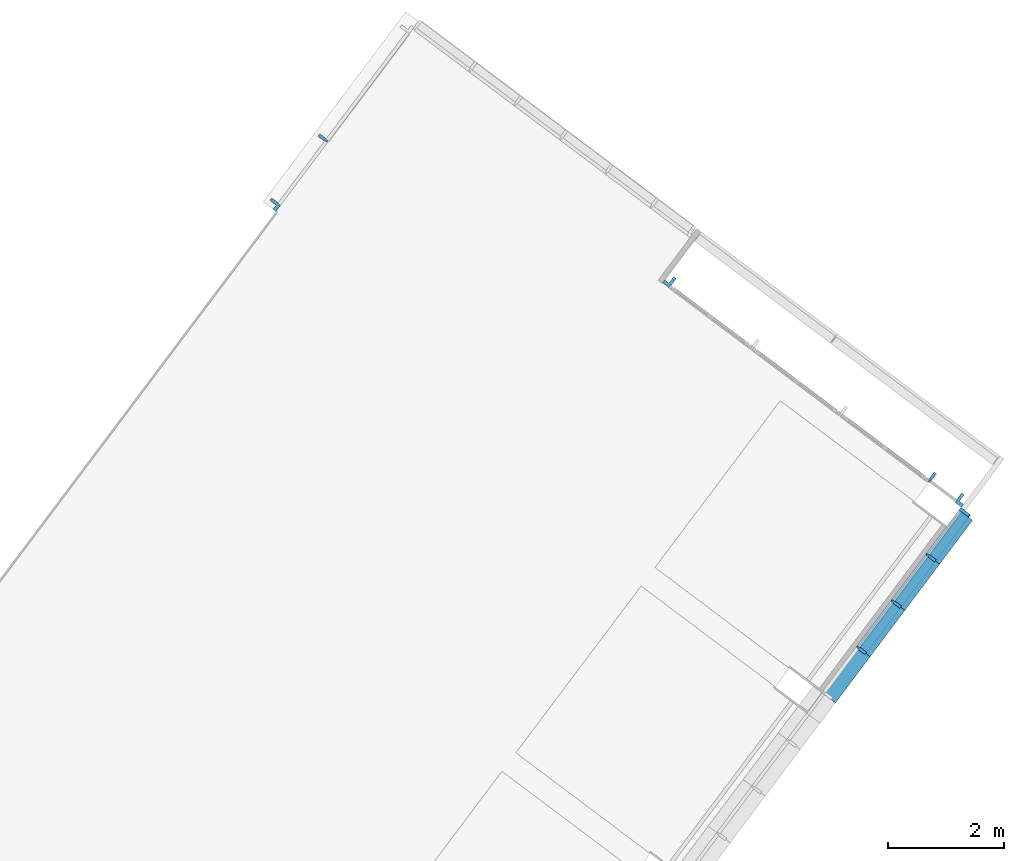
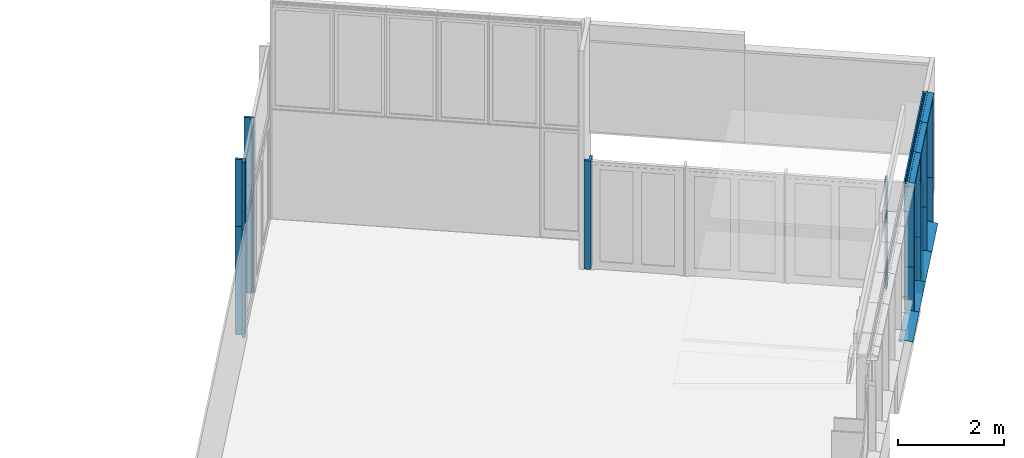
# One storey, part 2 of 15: 22 members, 3 elements without a shape of their own.
"""IFC2X3 building model written with IfcOpenShell, lengths in metres."""

from ifc_helpers import new_model, entity, si_unit, converted_unit, derived_unit, direction, frame, frame_2d, origin, place, context, subcontext, project, spatial, polyline, rectangle, outline, extrude, source, transform, mapped, material, type_object, type_shapes, element, aggregate, save


model = new_model("IFC2X3")

# Units and contexts
model_context = context("Model", 3, precision=1e-05, world=origin(), true_north=direction((6.123031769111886e-17, 1.0)))
body_context = subcontext(model_context, "Body", "Model", "MODEL_VIEW")
ifc_project = project(units=[si_unit("LENGTHUNIT", "METRE"), si_unit("AREAUNIT", "SQUARE_METRE"), si_unit("VOLUMEUNIT", "CUBIC_METRE"), converted_unit("PLANEANGLEUNIT", "DEGREE", entity("IfcRatioMeasure", 0.017453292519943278), si_unit("PLANEANGLEUNIT", "RADIAN"), dimensions=[0, 0, 0, 0, 0, 0, 0]), si_unit("MASSUNIT", "GRAM", prefix="KILO"), derived_unit("MASSDENSITYUNIT", [(si_unit("MASSUNIT", "GRAM", prefix="KILO"), 1), (si_unit("LENGTHUNIT", "METRE"), -3)]), derived_unit("IONCONCENTRATIONUNIT", [(si_unit("MASSUNIT", "GRAM", prefix="KILO"), 1), (si_unit("LENGTHUNIT", "METRE"), -3)]), derived_unit("MOMENTOFINERTIAUNIT", [(si_unit("LENGTHUNIT", "METRE"), 4)]), si_unit("TIMEUNIT", "SECOND"), si_unit("FREQUENCYUNIT", "HERTZ"), si_unit("THERMODYNAMICTEMPERATUREUNIT", "DEGREE_CELSIUS"), derived_unit("THERMALTRANSMITTANCEUNIT", [(si_unit("MASSUNIT", "GRAM", prefix="KILO"), 1), (si_unit("THERMODYNAMICTEMPERATUREUNIT", "KELVIN"), -1), (si_unit("TIMEUNIT", "SECOND"), -3)]), derived_unit("THERMALCONDUCTANCEUNIT", [(si_unit("MASSUNIT", "GRAM", prefix="KILO"), 1), (si_unit("THERMODYNAMICTEMPERATUREUNIT", "KELVIN"), -1), (si_unit("TIMEUNIT", "SECOND"), -3), (si_unit("LENGTHUNIT", "METRE"), 1)]), derived_unit("VOLUMETRICFLOWRATEUNIT", [(si_unit("LENGTHUNIT", "METRE"), 3), (si_unit("TIMEUNIT", "SECOND"), -1)]), derived_unit("MASSFLOWRATEUNIT", [(si_unit("MASSUNIT", "GRAM", prefix="KILO"), 1), (si_unit("TIMEUNIT", "SECOND"), -1)]), derived_unit("ROTATIONALFREQUENCYUNIT", [(si_unit("TIMEUNIT", "SECOND"), -1)]), si_unit("ELECTRICCURRENTUNIT", "AMPERE"), si_unit("ELECTRICVOLTAGEUNIT", "VOLT"), si_unit("POWERUNIT", "WATT"), si_unit("FORCEUNIT", "NEWTON", prefix="KILO"), si_unit("ILLUMINANCEUNIT", "LUX"), si_unit("LUMINOUSFLUXUNIT", "LUMEN"), si_unit("LUMINOUSINTENSITYUNIT", "CANDELA"), derived_unit("USERDEFINED", [(si_unit("MASSUNIT", "GRAM", prefix="KILO"), -1), (si_unit("LENGTHUNIT", "METRE"), -2), (si_unit("TIMEUNIT", "SECOND"), 3), (si_unit("LUMINOUSFLUXUNIT", "LUMEN"), 1)]), derived_unit("USERDEFINED", [(si_unit("MASSUNIT", "GRAM", prefix="KILO"), 1), (si_unit("TIMEUNIT", "SECOND"), -3), (si_unit("LENGTHUNIT", "METRE"), 3), (si_unit("ELECTRICCURRENTUNIT", "AMPERE"), -2)]), derived_unit("SOUNDPOWERUNIT", [(si_unit("MASSUNIT", "GRAM", prefix="KILO"), 1), (si_unit("TIMEUNIT", "SECOND"), -3), (si_unit("LENGTHUNIT", "METRE"), 2)]), derived_unit("SOUNDPRESSUREUNIT", [(si_unit("MASSUNIT", "GRAM", prefix="KILO"), 1), (si_unit("LENGTHUNIT", "METRE"), -1), (si_unit("TIMEUNIT", "SECOND"), -2)]), derived_unit("LINEARVELOCITYUNIT", [(si_unit("LENGTHUNIT", "METRE"), 1), (si_unit("TIMEUNIT", "SECOND"), -1)]), si_unit("PRESSUREUNIT", "PASCAL"), derived_unit("USERDEFINED", [(si_unit("MASSUNIT", "GRAM", prefix="KILO"), 1), (si_unit("LENGTHUNIT", "METRE"), -2), (si_unit("TIMEUNIT", "SECOND"), -2)]), derived_unit("LINEARFORCEUNIT", [(si_unit("MASSUNIT", "GRAM", prefix="KILO"), 1), (si_unit("TIMEUNIT", "SECOND"), -2)]), derived_unit("PLANARFORCEUNIT", [(si_unit("MASSUNIT", "GRAM", prefix="KILO"), 1), (si_unit("LENGTHUNIT", "METRE"), -1), (si_unit("TIMEUNIT", "SECOND"), -2)]), derived_unit("SPECIFICHEATCAPACITYUNIT", [(si_unit("THERMODYNAMICTEMPERATUREUNIT", "KELVIN"), -1), (si_unit("LENGTHUNIT", "METRE"), 2), (si_unit("TIMEUNIT", "SECOND"), -2)]), derived_unit("HEATINGVALUEUNIT", [(si_unit("LENGTHUNIT", "METRE"), 2), (si_unit("TIMEUNIT", "SECOND"), -2)]), derived_unit("VAPORPERMEABILITYUNIT", [(si_unit("LENGTHUNIT", "METRE"), -1), (si_unit("TIMEUNIT", "SECOND"), 1)]), derived_unit("DYNAMICVISCOSITYUNIT", [(si_unit("MASSUNIT", "GRAM", prefix="KILO"), 1), (si_unit("TIMEUNIT", "SECOND"), -1), (si_unit("LENGTHUNIT", "METRE"), -1)]), derived_unit("THERMALEXPANSIONCOEFFICIENTUNIT", [(si_unit("THERMODYNAMICTEMPERATUREUNIT", "KELVIN"), -1)]), derived_unit("MODULUSOFELASTICITYUNIT", [(si_unit("MASSUNIT", "GRAM", prefix="KILO"), 1), (si_unit("LENGTHUNIT", "METRE"), -1), (si_unit("TIMEUNIT", "SECOND"), -2)]), derived_unit("ISOTHERMALMOISTURECAPACITYUNIT", [(si_unit("LENGTHUNIT", "METRE"), 3), (si_unit("MASSUNIT", "GRAM", prefix="KILO"), -1)]), derived_unit("MOISTUREDIFFUSIVITYUNIT", [(si_unit("TIMEUNIT", "SECOND"), -1), (si_unit("LENGTHUNIT", "METRE"), 2)])], contexts=[model_context])

# Site, building, storey
site_placement = place(None, frame((0.0, 0.0, 235.0), z_axis=(0.0, 0.0, 1.0), x_axis=(-0.7996477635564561, 0.6004693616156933, 0.0)))
site = spatial("IfcSite", under=ifc_project, at=site_placement, Name="Default", CompositionType="ELEMENT")
building_placement = place(site_placement, origin())
building = spatial("IfcBuilding", under=site, at=building_placement, CompositionType="ELEMENT")
storey_placement = place(building_placement, frame((0.0, 0.0, -5.4499999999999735)))
storey = spatial("IfcBuildingStorey", under=building, at=storey_placement, Name="PS1- Gimnàs", CompositionType="ELEMENT", Elevation=-5.4499999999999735)

# Curtain wall, members
curtain_wall_type_1 = type_object("IfcCurtainWallType", Name="Muro cortina:MC- EXT- MCv1- Portes", PredefinedType="NOTDEFINED")
curtain_wall_1_placement = place(storey_placement, frame((0.0, 0.0, 5.4499999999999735)))
curtain_wall_1 = element("IfcCurtainWall", 1, at=curtain_wall_1_placement, inside=storey, type_object=curtain_wall_type_1, Name="Muro cortina:MC- EXT- MCv1- Portes", ObjectType="Muro cortina:MC- EXT- MCv1- Portes")
ifc_material = material(Name="_Alumini- T1- Perfil")
member_type_1 = type_object("IfcMemberType", Name="Montante rectangular:MC- Alu- 210x50 cm- Gimnas- Dreta", PredefinedType="MULLION", material=ifc_material)
shared_shape_1 = source(origin(), body_context, "Body", "SweptSolid", [
    extrude(outline(polyline([(-0.019499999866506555, -0.051562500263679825), (0.11949999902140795, -0.051562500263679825), (0.11949999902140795, 0.0009375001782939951), (-0.019500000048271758, 0.0009375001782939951), (-0.019500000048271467, 0.090937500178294), (-0.0804999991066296, 0.09093750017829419), (-0.08049999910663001, -0.04031250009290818), (-0.019499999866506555, -0.04031250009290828), (-0.019499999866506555, -0.051562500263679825)])), frame((-0.090937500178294, -0.020499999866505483, -1.5455557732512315), z_axis=(0.0, 0.0, 1.0), x_axis=(0.0, -1.0, 0.0)), (0.0, 0.0, 1.0), 1.5455557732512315),
])
type_shapes(member_type_1, [shared_shape_1])
member_1_placement = place(curtain_wall_1_placement, frame((15.730147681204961, -35.37519881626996, -1.4044442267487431), z_axis=(0.0, 0.0, 1.0), x_axis=(0.0, 1.0, 0.0)))
member_1 = element("IfcMember", 2, at=member_1_placement, type_object=member_type_1, material=ifc_material, Name="Montante rectangular:MC- Alu- 210x50 cm- Gimnas- Dreta", ObjectType="Montante rectangular:MC- Alu- 210x50 cm- Gimnas- Dreta", context=body_context, shape_type="MappedRepresentation", body=[
    mapped(shared_shape_1, transform((0.0, 0.0, 0.0), scale=1.0)),
])
member_type_2 = type_object("IfcMemberType", Name="Montante rectangular:MC- Alu- 210x50 cm- Gimnas- Centre", PredefinedType="MULLION", material=ifc_material)
shared_shape_2 = source(origin(), body_context, "Body", "SweptSolid", [
    extrude(outline(polyline([(-0.021999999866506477, -0.026250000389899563), (0.11699999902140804, -0.026250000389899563), (0.11699999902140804, 0.026250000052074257), (-0.02200000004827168, 0.026250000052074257), (-0.02200000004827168, 0.015000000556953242), (-0.07299999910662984, 0.015000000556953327), (-0.07299999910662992, -0.01500000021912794), (-0.021999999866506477, -0.01500000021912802), (-0.021999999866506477, -0.026250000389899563)])), frame((0.0, -0.022999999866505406, -2.4999999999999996), z_axis=(0.0, 0.0, 1.0), x_axis=(0.0, -1.0, 0.0)), (0.0, 0.0, 1.0), 2.4999999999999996),
])
type_shapes(member_type_2, [shared_shape_2])
member_2_placement = place(curtain_wall_1_placement, frame((15.730147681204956, -36.875198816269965, -5.449999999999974), z_axis=(0.0, 0.0, -1.0), x_axis=(0.0, -1.0, 0.0)))
member_2 = element("IfcMember", 3, at=member_2_placement, type_object=member_type_2, material=ifc_material, Name="Montante rectangular:MC- Alu- 210x50 cm- Gimnas- Centre", ObjectType="Montante rectangular:MC- Alu- 210x50 cm- Gimnas- Centre", context=body_context, shape_type="MappedRepresentation", body=[
    mapped(shared_shape_2, transform((0.0, 0.0, 0.0), scale=1.0)),
])
member_type_3 = type_object("IfcMemberType", Name="Montante rectangular:MC- Alu- 210x50 cm- Gimnas- Dreta", PredefinedType="MULLION", material=ifc_material)
shared_shape_3 = source(origin(), body_context, "Body", "SweptSolid", [
    extrude(outline(polyline([(-0.019499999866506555, -0.051562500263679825), (0.11949999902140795, -0.051562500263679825), (0.11949999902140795, 0.0009375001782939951), (-0.019500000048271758, 0.0009375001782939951), (-0.019500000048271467, 0.090937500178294), (-0.0804999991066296, 0.09093750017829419), (-0.08049999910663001, -0.04031250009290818), (-0.019499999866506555, -0.04031250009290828), (-0.019499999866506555, -0.051562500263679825)])), frame((-0.090937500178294, -0.020499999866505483, -2.4999999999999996), z_axis=(0.0, 0.0, 1.0), x_axis=(0.0, -1.0, 0.0)), (0.0, 0.0, 1.0), 2.5),
])
type_shapes(member_type_3, [shared_shape_3])
member_3_placement = place(curtain_wall_1_placement, frame((15.730147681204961, -35.37519881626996, -2.9499999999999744), z_axis=(0.0, 0.0, 1.0), x_axis=(0.0, 1.0, 0.0)))
member_3 = element("IfcMember", 4, at=member_3_placement, type_object=member_type_3, material=ifc_material, Name="Montante rectangular:MC- Alu- 210x50 cm- Gimnas- Dreta", ObjectType="Montante rectangular:MC- Alu- 210x50 cm- Gimnas- Dreta", context=body_context, shape_type="MappedRepresentation", body=[
    mapped(shared_shape_3, transform((0.0, 0.0, 0.0), scale=1.0)),
])
member_type_4 = type_object("IfcMemberType", Name="Montante rectangular:MC- Alu- 210x50 cm- Gimnas- Centre", PredefinedType="MULLION", material=ifc_material)
shared_shape_4 = source(origin(), body_context, "Body", "SweptSolid", [
    extrude(outline(polyline([(-0.021999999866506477, -0.026250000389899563), (0.11699999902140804, -0.026250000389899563), (0.11699999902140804, 0.026250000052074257), (-0.02200000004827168, 0.026250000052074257), (-0.02200000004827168, 0.015000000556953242), (-0.07299999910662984, 0.015000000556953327), (-0.07299999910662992, -0.01500000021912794), (-0.021999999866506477, -0.01500000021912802), (-0.021999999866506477, -0.026250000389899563)])), frame((0.0, -0.022999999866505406, -1.5455557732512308), z_axis=(0.0, 0.0, 1.0), x_axis=(0.0, -1.0, 0.0)), (0.0, 0.0, 1.0), 1.545555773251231),
])
type_shapes(member_type_4, [shared_shape_4])
member_4_placement = place(curtain_wall_1_placement, frame((15.730147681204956, -36.875198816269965, -2.949999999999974), z_axis=(0.0, 0.0, -1.0), x_axis=(0.0, -1.0, 0.0)))
member_4 = element("IfcMember", 5, at=member_4_placement, type_object=member_type_4, material=ifc_material, Name="Montante rectangular:MC- Alu- 210x50 cm- Gimnas- Centre", ObjectType="Montante rectangular:MC- Alu- 210x50 cm- Gimnas- Centre", context=body_context, shape_type="MappedRepresentation", body=[
    mapped(shared_shape_4, transform((0.0, 0.0, 0.0), scale=1.0)),
])
aggregate(curtain_wall_1, [member_1, member_2, member_3, member_4])

curtain_wall_2_placement = place(storey_placement, frame((0.0, 0.0, 5.4499999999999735)))
curtain_wall_2 = element("IfcCurtainWall", 6, at=curtain_wall_2_placement, inside=storey, type_object=curtain_wall_type_1, Name="Muro cortina:MC- EXT- MCv1- Portes", ObjectType="Muro cortina:MC- EXT- MCv1- Portes")
member_type_5 = type_object("IfcMemberType", Name="Montante rectangular:MC- Alu- 210x50 cm- Gimnas- Esquerra", PredefinedType="MULLION", material=ifc_material)
shared_shape_5 = source(origin(), body_context, "Body", "SweptSolid", [
    extrude(outline(polyline([(-0.019499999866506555, -0.051562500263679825), (0.11949999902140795, -0.051562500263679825), (0.11949999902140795, 0.0009375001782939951), (-0.019500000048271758, 0.0009375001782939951), (-0.019500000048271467, 0.090937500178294), (-0.0804999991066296, 0.09093750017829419), (-0.08049999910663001, -0.04031250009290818), (-0.019499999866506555, -0.04031250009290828), (-0.019499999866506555, -0.051562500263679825)])), frame((-0.090937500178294, -0.020499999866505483, -2.499999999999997), z_axis=(0.0, 0.0, 1.0), x_axis=(0.0, -1.0, 0.0)), (0.0, 0.0, 1.0), 2.499999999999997),
])
type_shapes(member_type_5, [shared_shape_5])
member_5_placement = place(curtain_wall_2_placement, frame((3.1411476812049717, -38.460191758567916, -5.449999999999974), z_axis=(0.0, 0.0, -1.0), x_axis=(-1.0, 0.0, 0.0)))
member_5 = element("IfcMember", 7, at=member_5_placement, type_object=member_type_5, material=ifc_material, Name="Montante rectangular:MC- Alu- 210x50 cm- Gimnas- Esquerra", ObjectType="Montante rectangular:MC- Alu- 210x50 cm- Gimnas- Esquerra", context=body_context, shape_type="MappedRepresentation", body=[
    mapped(shared_shape_5, transform((0.0, 0.0, 0.0), scale=1.0)),
])
member_type_6 = type_object("IfcMemberType", Name="Montante rectangular:MC- Alu- 210x50 cm- Gimnas- Dreta", PredefinedType="MULLION", material=ifc_material)
shared_shape_6 = source(origin(), body_context, "Body", "SweptSolid", [
    extrude(outline(polyline([(-0.019499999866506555, -0.051562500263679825), (0.11949999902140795, -0.051562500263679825), (0.11949999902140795, 0.0009375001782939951), (-0.019500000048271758, 0.0009375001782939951), (-0.019500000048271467, 0.090937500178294), (-0.0804999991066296, 0.09093750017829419), (-0.08049999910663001, -0.04031250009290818), (-0.019499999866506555, -0.04031250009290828), (-0.019499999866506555, -0.051562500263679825)])), frame((-0.090937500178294, -0.020499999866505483, -2.499999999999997), z_axis=(0.0, 0.0, 1.0), x_axis=(0.0, -1.0, 0.0)), (0.0, 0.0, 1.0), 2.499999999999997),
])
type_shapes(member_type_6, [shared_shape_6])
member_6_placement = place(curtain_wall_2_placement, frame((9.591147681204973, -38.46019175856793, -2.949999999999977)))
member_6 = element("IfcMember", 8, at=member_6_placement, type_object=member_type_6, material=ifc_material, Name="Montante rectangular:MC- Alu- 210x50 cm- Gimnas- Dreta", ObjectType="Montante rectangular:MC- Alu- 210x50 cm- Gimnas- Dreta", context=body_context, shape_type="MappedRepresentation", body=[
    mapped(shared_shape_6, transform((0.0, 0.0, 0.0), scale=1.0)),
])
member_type_7 = type_object("IfcMemberType", Name="Montante rectangular:MC- Alu- 210x50 cm- Gimnas- Centre", PredefinedType="MULLION", material=ifc_material)
shared_shape_7 = source(origin(), body_context, "Body", "SweptSolid", [
    extrude(outline(polyline([(-0.021999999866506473, -0.026250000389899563), (0.11699999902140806, -0.026250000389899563), (0.11699999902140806, 0.026250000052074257), (-0.022000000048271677, 0.026250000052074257), (-0.022000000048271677, 0.015000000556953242), (-0.07299999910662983, 0.015000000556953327), (-0.07299999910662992, -0.01500000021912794), (-0.021999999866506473, -0.01500000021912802), (-0.021999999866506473, -0.026250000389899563)])), frame((0.0, -0.022999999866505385, -2.499999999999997), z_axis=(0.0, 0.0, 1.0), x_axis=(0.0, -1.0, 0.0)), (0.0, 0.0, 1.0), 2.499999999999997),
])
type_shapes(member_type_7, [shared_shape_7])
member_7_placement = place(curtain_wall_2_placement, frame((3.8551476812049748, -38.460191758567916, -5.449999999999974), z_axis=(0.0, 0.0, -1.0), x_axis=(-1.0, 0.0, 0.0)))
member_7 = element("IfcMember", 9, at=member_7_placement, type_object=member_type_7, material=ifc_material, Name="Montante rectangular:MC- Alu- 210x50 cm- Gimnas- Centre", ObjectType="Montante rectangular:MC- Alu- 210x50 cm- Gimnas- Centre", context=body_context, shape_type="MappedRepresentation", body=[
    mapped(shared_shape_7, transform((0.0, 0.0, 0.0), scale=1.0)),
])
aggregate(curtain_wall_2, [member_5, member_6, member_7])

curtain_wall_type_2 = type_object("IfcCurtainWallType", Name="Muro cortina:MC- EXT- MCv1- lateral", PredefinedType="NOTDEFINED")
curtain_wall_3_placement = place(storey_placement, frame((0.0, 0.0, 5.4499999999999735)))
curtain_wall_3 = element("IfcCurtainWall", 10, at=curtain_wall_3_placement, inside=storey, type_object=curtain_wall_type_2, Name="Muro cortina:MC- EXT- MCv1- lateral", ObjectType="Muro cortina:MC- EXT- MCv1- lateral")
member_type_8 = type_object("IfcMemberType", Name="Montante rectangular:MC- Alu- gimnàs inferior lateral", PredefinedType="MULLION", material=ifc_material)
shared_shape_8 = source(origin(), body_context, "Body", "SweptSolid", [
    extrude(outline(polyline([(-0.14744510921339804, -0.030634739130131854), (-0.0654451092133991, -0.030634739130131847), (0.12380638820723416, 0.005375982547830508), (0.12380638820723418, 0.01936526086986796), (0.12180638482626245, 0.019365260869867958), (0.12180638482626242, 0.0070313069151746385), (-0.06544510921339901, -0.028598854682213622), (-0.06544510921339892, 0.019365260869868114), (-0.14744510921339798, 0.01936526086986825), (-0.14744510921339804, -0.030634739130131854)])), frame((-0.019365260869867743, -0.11044510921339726, -0.9470187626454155), z_axis=(0.0, 0.0, 1.0), x_axis=(0.0, -1.0, 0.0)), (0.0, 0.0, 1.0), 0.9470187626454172),
])
type_shapes(member_type_8, [shared_shape_8])
member_8_placement = place(curtain_wall_3_placement, frame((3.085147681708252, -38.33624804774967, -3.793999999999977), z_axis=(0.0, -1.0, 0.0), x_axis=(0.0, 0.0, -1.0)))
member_8 = element("IfcMember", 11, at=member_8_placement, type_object=member_type_8, material=ifc_material, Name="Montante rectangular:MC- Alu- gimnàs inferior lateral", ObjectType="Montante rectangular:MC- Alu- gimnàs inferior lateral", context=body_context, shape_type="MappedRepresentation", body=[
    mapped(shared_shape_8, transform((0.0, 0.0, 0.0), scale=1.0)),
])
member_type_9 = type_object("IfcMemberType", Name="Montante rectangular:MC- Alu- 210x50 cm- Gimnas- Centre inferior", PredefinedType="MULLION", material=ifc_material)
shared_shape_9 = source(origin(), body_context, "Body", "SweptSolid", [
    extrude(rectangle(XDim=0.19999999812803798, YDim=0.052500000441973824, at=frame_2d((-3.469446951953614e-17, 0.0), x_axis=(1.0, 0.0))), frame((-0.026250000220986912, -0.03999999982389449, -1.8474999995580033), z_axis=(0.0, 0.0, 1.0), x_axis=(0.0, -1.0, 0.0)), (0.0, 0.0, 1.0), 1.8474999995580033),
])
type_shapes(member_type_9, [shared_shape_9])
member_9_placement = place(curtain_wall_3_placement, frame((3.085147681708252, -38.388748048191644, -0.8925000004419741), z_axis=(0.0, 0.0, 1.0), x_axis=(0.0, -1.0, 0.0)))
member_9 = element("IfcMember", 12, at=member_9_placement, type_object=member_type_9, material=ifc_material, Name="Montante rectangular:MC- Alu- 210x50 cm- Gimnas- Centre inferior", ObjectType="Montante rectangular:MC- Alu- 210x50 cm- Gimnas- Centre inferior", context=body_context, shape_type="MappedRepresentation", body=[
    mapped(shared_shape_9, transform((0.0, 0.0, 0.0), scale=1.0)),
])
member_type_10 = type_object("IfcMemberType", Name="Montante rectangular:MC- Alu- 210x50 cm- Gimnas- Superior", PredefinedType="MULLION", material=ifc_material)
shared_shape_10 = source(origin(), body_context, "Body", "SweptSolid", [
    extrude(outline(polyline([(-0.09008951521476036, -0.0692243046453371), (0.10991048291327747, -0.0692243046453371), (0.10991048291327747, -0.016724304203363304), (-0.027089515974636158, -0.016724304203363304), (-0.027089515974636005, 0.030275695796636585), (0.006151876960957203, 0.030275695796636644), (0.006151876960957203, 0.01801675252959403), (0.11816142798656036, -0.0017335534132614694), (0.11816142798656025, -0.029506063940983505), (0.12116142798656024, -0.029506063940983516), (0.12116142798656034, 0.0007837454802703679), (0.009151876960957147, 0.020534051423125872), (0.009151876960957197, 0.033275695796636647), (-0.030089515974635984, 0.03327569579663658), (-0.030089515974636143, -0.016724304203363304), (-0.0620895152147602, -0.016724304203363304), (-0.06208951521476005, 0.03327569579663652), (-0.09008951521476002, 0.03327569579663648), (-0.09008951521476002, 0.030275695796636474), (-0.06508951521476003, 0.03027569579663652), (-0.06508951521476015, -0.013724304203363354), (-0.09008951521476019, -0.01372430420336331), (-0.09008951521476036, -0.0692243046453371)])), frame((-0.03327569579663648, -0.030089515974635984, -0.9995187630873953), z_axis=(0.0, 0.0, 1.0), x_axis=(0.0, -1.0, 0.0)), (0.0, 0.0, 1.0), 0.9995187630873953),
])
type_shapes(member_type_10, [shared_shape_10])
member_10_placement = place(curtain_wall_3_placement, frame((3.085147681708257, -35.39019175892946, -0.79), z_axis=(0.0, 1.0, 0.0), x_axis=(0.0, 0.0, 1.0)))
member_10 = element("IfcMember", 13, at=member_10_placement, type_object=member_type_10, material=ifc_material, Name="Montante rectangular:MC- Alu- 210x50 cm- Gimnas- Superior", ObjectType="Montante rectangular:MC- Alu- 210x50 cm- Gimnas- Superior", context=body_context, shape_type="MappedRepresentation", body=[
    mapped(shared_shape_10, transform((0.0, 0.0, 0.0), scale=1.0)),
])
member_11_placement = place(curtain_wall_3_placement, frame((3.0851476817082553, -36.389710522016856, -0.79), z_axis=(0.0, 1.0, 0.0), x_axis=(0.0, 0.0, 1.0)))
member_11 = element("IfcMember", 14, at=member_11_placement, type_object=member_type_10, material=ifc_material, Name="Montante rectangular:MC- Alu- 210x50 cm- Gimnas- Superior", ObjectType="Montante rectangular:MC- Alu- 210x50 cm- Gimnas- Superior", context=body_context, shape_type="MappedRepresentation", body=[
    mapped(shared_shape_10, transform((0.0, 0.0, 0.0), scale=1.0)),
])
member_type_11 = type_object("IfcMemberType", Name="Montante rectangular:MC- Alu- gimnàs inferior lateral", PredefinedType="MULLION", material=ifc_material)
shared_shape_11 = source(origin(), body_context, "Body", "SweptSolid", [
    extrude(outline(polyline([(-0.14744510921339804, -0.030634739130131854), (-0.0654451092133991, -0.030634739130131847), (0.12380638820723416, 0.005375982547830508), (0.12380638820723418, 0.01936526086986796), (0.12180638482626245, 0.019365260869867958), (0.12180638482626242, 0.0070313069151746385), (-0.06544510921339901, -0.028598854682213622), (-0.06544510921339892, 0.019365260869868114), (-0.14744510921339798, 0.01936526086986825), (-0.14744510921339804, -0.030634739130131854)])), frame((-0.019365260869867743, -0.11044510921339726, -1.0), z_axis=(0.0, 0.0, 1.0), x_axis=(0.0, -1.0, 0.0)), (0.0, 0.0, 1.0), 0.9999999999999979),
])
type_shapes(member_type_11, [shared_shape_11])
member_12_placement = place(curtain_wall_3_placement, frame((3.085147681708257, -35.39019175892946, -3.7939999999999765), z_axis=(0.0, -1.0, 0.0), x_axis=(0.0, 0.0, -1.0)))
member_12 = element("IfcMember", 15, at=member_12_placement, type_object=member_type_11, material=ifc_material, Name="Montante rectangular:MC- Alu- gimnàs inferior lateral", ObjectType="Montante rectangular:MC- Alu- gimnàs inferior lateral", context=body_context, shape_type="MappedRepresentation", body=[
    mapped(shared_shape_11, transform((0.0, 0.0, 0.0), scale=1.0)),
])
member_type_12 = type_object("IfcMemberType", Name="Montante rectangular:MC- Alu- 140x52,5 cm- Fa patis- Centre", PredefinedType="MULLION", material=ifc_material)
shared_shape_12 = source(origin(), body_context, "Body", "SweptSolid", [
    extrude(outline(polyline([(-0.021999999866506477, -0.026250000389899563), (0.11699999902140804, -0.026250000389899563), (0.11699999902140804, 0.026250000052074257), (-0.02200000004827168, 0.026250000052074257), (-0.02200000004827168, 0.015000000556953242), (-0.07299999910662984, 0.015000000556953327), (-0.07299999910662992, -0.01500000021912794), (-0.021999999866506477, -0.01500000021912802), (-0.021999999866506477, -0.026250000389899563)])), frame((0.0, -0.022999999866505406, -1.0040000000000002), z_axis=(0.0, 0.0, 1.0), x_axis=(0.0, -1.0, 0.0)), (0.0, 0.0, 1.0), 1.0040000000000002),
])
type_shapes(member_type_12, [shared_shape_12])
member_13_placement = place(curtain_wall_3_placement, frame((3.085147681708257, -35.39019175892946, -3.7439999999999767), z_axis=(0.0, 0.0, -1.0), x_axis=(0.0, 1.0, 0.0)))
member_13 = element("IfcMember", 16, at=member_13_placement, type_object=member_type_12, material=ifc_material, Name="Montante rectangular:MC- Alu- 140x52,5 cm- Fa patis- Centre", ObjectType="Montante rectangular:MC- Alu- 140x52,5 cm- Fa patis- Centre", context=body_context, shape_type="MappedRepresentation", body=[
    mapped(shared_shape_12, transform((0.0, 0.0, 0.0), scale=1.0)),
])
member_14_placement = place(curtain_wall_3_placement, frame((3.0851476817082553, -36.389710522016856, -3.7439999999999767), z_axis=(0.0, 0.0, -1.0), x_axis=(0.0, 1.0, 0.0)))
member_14 = element("IfcMember", 17, at=member_14_placement, type_object=member_type_12, material=ifc_material, Name="Montante rectangular:MC- Alu- 140x52,5 cm- Fa patis- Centre", ObjectType="Montante rectangular:MC- Alu- 140x52,5 cm- Fa patis- Centre", context=body_context, shape_type="MappedRepresentation", body=[
    mapped(shared_shape_12, transform((0.0, 0.0, 0.0), scale=1.0)),
])
member_15_placement = place(curtain_wall_3_placement, frame((3.085147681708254, -37.38922928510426, -3.7439999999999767), z_axis=(0.0, 0.0, -1.0), x_axis=(0.0, 1.0, 0.0)))
member_15 = element("IfcMember", 18, at=member_15_placement, type_object=member_type_12, material=ifc_material, Name="Montante rectangular:MC- Alu- 140x52,5 cm- Fa patis- Centre", ObjectType="Montante rectangular:MC- Alu- 140x52,5 cm- Fa patis- Centre", context=body_context, shape_type="MappedRepresentation", body=[
    mapped(shared_shape_12, transform((0.0, 0.0, 0.0), scale=1.0)),
])
member_type_13 = type_object("IfcMemberType", Name="Montante rectangular:MC- Alu- gimnàs inferior lateral", PredefinedType="MULLION", material=ifc_material)
shared_shape_13 = source(origin(), body_context, "Body", "SweptSolid", [
    extrude(outline(polyline([(-0.14744510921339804, -0.030634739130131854), (-0.0654451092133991, -0.030634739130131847), (0.12380638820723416, 0.005375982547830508), (0.12380638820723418, 0.01936526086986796), (0.12180638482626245, 0.019365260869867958), (0.12180638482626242, 0.0070313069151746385), (-0.06544510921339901, -0.028598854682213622), (-0.06544510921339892, 0.019365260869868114), (-0.14744510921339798, 0.01936526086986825), (-0.14744510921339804, -0.030634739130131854)])), frame((-0.019365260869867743, -0.11044510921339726, -0.9995187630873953), z_axis=(0.0, 0.0, 1.0), x_axis=(0.0, -1.0, 0.0)), (0.0, 0.0, 1.0), 0.9995187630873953),
])
type_shapes(member_type_13, [shared_shape_13])
member_16_placement = place(curtain_wall_3_placement, frame((3.0851476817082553, -36.389710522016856, -3.7939999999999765), z_axis=(0.0, -1.0, 0.0), x_axis=(0.0, 0.0, -1.0)))
member_16 = element("IfcMember", 19, at=member_16_placement, type_object=member_type_13, material=ifc_material, Name="Montante rectangular:MC- Alu- gimnàs inferior lateral", ObjectType="Montante rectangular:MC- Alu- gimnàs inferior lateral", context=body_context, shape_type="MappedRepresentation", body=[
    mapped(shared_shape_13, transform((0.0, 0.0, 0.0), scale=1.0)),
])
member_17_placement = place(curtain_wall_3_placement, frame((3.085147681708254, -37.38922928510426, -3.7939999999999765), z_axis=(0.0, -1.0, 0.0), x_axis=(0.0, 0.0, -1.0)))
member_17 = element("IfcMember", 20, at=member_17_placement, type_object=member_type_13, material=ifc_material, Name="Montante rectangular:MC- Alu- gimnàs inferior lateral", ObjectType="Montante rectangular:MC- Alu- gimnàs inferior lateral", context=body_context, shape_type="MappedRepresentation", body=[
    mapped(shared_shape_13, transform((0.0, 0.0, 0.0), scale=1.0)),
])
member_type_14 = type_object("IfcMemberType", Name="Montante rectangular:MC- Alu- 210x50 cm- Gimnas- Superior", PredefinedType="MULLION", material=ifc_material)
shared_shape_14 = source(origin(), body_context, "Body", "SweptSolid", [
    extrude(outline(polyline([(-0.09008951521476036, -0.0692243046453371), (0.10991048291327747, -0.0692243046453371), (0.10991048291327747, -0.016724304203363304), (-0.027089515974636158, -0.016724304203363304), (-0.027089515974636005, 0.030275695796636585), (0.006151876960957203, 0.030275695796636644), (0.006151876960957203, 0.01801675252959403), (0.11816142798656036, -0.0017335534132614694), (0.11816142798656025, -0.029506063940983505), (0.12116142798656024, -0.029506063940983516), (0.12116142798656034, 0.0007837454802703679), (0.009151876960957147, 0.020534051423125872), (0.009151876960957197, 0.033275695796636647), (-0.030089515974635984, 0.03327569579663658), (-0.030089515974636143, -0.016724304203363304), (-0.0620895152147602, -0.016724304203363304), (-0.06208951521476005, 0.03327569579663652), (-0.09008951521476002, 0.03327569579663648), (-0.09008951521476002, 0.030275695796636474), (-0.06508951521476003, 0.03027569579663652), (-0.06508951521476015, -0.013724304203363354), (-0.09008951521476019, -0.01372430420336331), (-0.09008951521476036, -0.0692243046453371)])), frame((-0.03327569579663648, -0.030089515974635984, -0.999518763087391), z_axis=(0.0, 0.0, 1.0), x_axis=(0.0, -1.0, 0.0)), (0.0, 0.0, 1.0), 0.999518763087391),
])
type_shapes(member_type_14, [shared_shape_14])
member_18_placement = place(curtain_wall_3_placement, frame((3.085147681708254, -37.38922928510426, -0.79), z_axis=(0.0, 1.0, 0.0), x_axis=(0.0, 0.0, 1.0)))
member_18 = element("IfcMember", 21, at=member_18_placement, type_object=member_type_14, material=ifc_material, Name="Montante rectangular:MC- Alu- 210x50 cm- Gimnas- Superior", ObjectType="Montante rectangular:MC- Alu- 210x50 cm- Gimnas- Superior", context=body_context, shape_type="MappedRepresentation", body=[
    mapped(shared_shape_14, transform((0.0, 0.0, 0.0), scale=1.0)),
])
member_type_15 = type_object("IfcMemberType", Name="Montante rectangular:MC- Alu- 210x50 cm- Gimnas- Centre inferior", PredefinedType="MULLION", material=ifc_material)
shared_shape_15 = source(origin(), body_context, "Body", "SweptSolid", [
    extrude(rectangle(XDim=0.19999999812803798, YDim=0.052500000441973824, at=frame_2d((-3.469446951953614e-17, 0.0), x_axis=(1.0, 0.0))), frame((-0.026250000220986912, -0.03999999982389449, -1.0539999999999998), z_axis=(0.0, 0.0, 1.0), x_axis=(0.0, -1.0, 0.0)), (0.0, 0.0, 1.0), 1.0539999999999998),
])
type_shapes(member_type_15, [shared_shape_15])
member_19_placement = place(curtain_wall_3_placement, frame((3.085147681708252, -38.388748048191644, -2.7399999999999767), z_axis=(0.0, 0.0, 1.0), x_axis=(0.0, -1.0, 0.0)))
member_19 = element("IfcMember", 22, at=member_19_placement, type_object=member_type_15, material=ifc_material, Name="Montante rectangular:MC- Alu- 210x50 cm- Gimnas- Centre inferior", ObjectType="Montante rectangular:MC- Alu- 210x50 cm- Gimnas- Centre inferior", context=body_context, shape_type="MappedRepresentation", body=[
    mapped(shared_shape_15, transform((0.0, 0.0, 0.0), scale=1.0)),
])
member_type_16 = type_object("IfcMemberType", Name="Montante rectangular:MC- Alu- 140x52,5 cm- Fa patis- Centre", PredefinedType="MULLION", material=ifc_material)
shared_shape_16 = source(origin(), body_context, "Body", "SweptSolid", [
    extrude(outline(polyline([(-0.021999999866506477, -0.026250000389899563), (0.11699999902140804, -0.026250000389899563), (0.11699999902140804, 0.026250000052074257), (-0.02200000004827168, 0.026250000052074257), (-0.02200000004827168, 0.015000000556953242), (-0.07299999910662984, 0.015000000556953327), (-0.07299999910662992, -0.01500000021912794), (-0.021999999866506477, -0.01500000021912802), (-0.021999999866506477, -0.026250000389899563)])), frame((0.0, -0.022999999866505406, -1.8474999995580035), z_axis=(0.0, 0.0, 1.0), x_axis=(0.0, -1.0, 0.0)), (0.0, 0.0, 1.0), 1.8474999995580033),
])
type_shapes(member_type_16, [shared_shape_16])
member_20_placement = place(curtain_wall_3_placement, frame((3.085147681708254, -37.38922928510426, -2.7399999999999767), z_axis=(0.0, 0.0, -1.0), x_axis=(0.0, 1.0, 0.0)))
member_20 = element("IfcMember", 23, at=member_20_placement, type_object=member_type_16, material=ifc_material, Name="Montante rectangular:MC- Alu- 140x52,5 cm- Fa patis- Centre", ObjectType="Montante rectangular:MC- Alu- 140x52,5 cm- Fa patis- Centre", context=body_context, shape_type="MappedRepresentation", body=[
    mapped(shared_shape_16, transform((0.0, 0.0, 0.0), scale=1.0)),
])
member_21_placement = place(curtain_wall_3_placement, frame((3.0851476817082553, -36.389710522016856, -2.7399999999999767), z_axis=(0.0, 0.0, -1.0), x_axis=(0.0, 1.0, 0.0)))
member_21 = element("IfcMember", 24, at=member_21_placement, type_object=member_type_16, material=ifc_material, Name="Montante rectangular:MC- Alu- 140x52,5 cm- Fa patis- Centre", ObjectType="Montante rectangular:MC- Alu- 140x52,5 cm- Fa patis- Centre", context=body_context, shape_type="MappedRepresentation", body=[
    mapped(shared_shape_16, transform((0.0, 0.0, 0.0), scale=1.0)),
])
member_22_placement = place(curtain_wall_3_placement, frame((3.085147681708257, -35.39019175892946, -2.7399999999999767), z_axis=(0.0, 0.0, -1.0), x_axis=(0.0, 1.0, 0.0)))
member_22 = element("IfcMember", 25, at=member_22_placement, type_object=member_type_16, material=ifc_material, Name="Montante rectangular:MC- Alu- 140x52,5 cm- Fa patis- Centre", ObjectType="Montante rectangular:MC- Alu- 140x52,5 cm- Fa patis- Centre", context=body_context, shape_type="MappedRepresentation", body=[
    mapped(shared_shape_16, transform((0.0, 0.0, 0.0), scale=1.0)),
])
aggregate(curtain_wall_3, [member_8, member_9, member_10, member_12, member_13, member_11, member_16, member_14, member_18, member_17, member_15, member_19, member_20, member_21, member_22])

save(model, "model.ifc")
